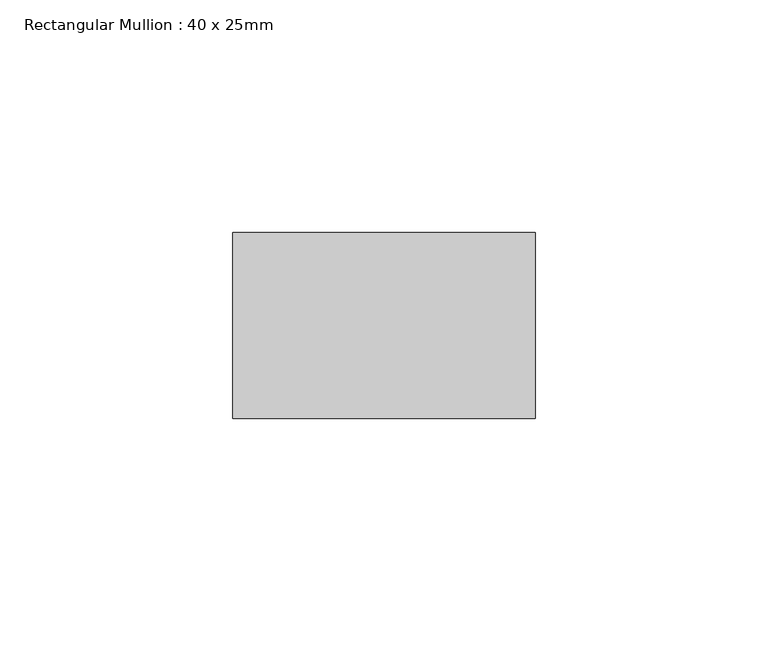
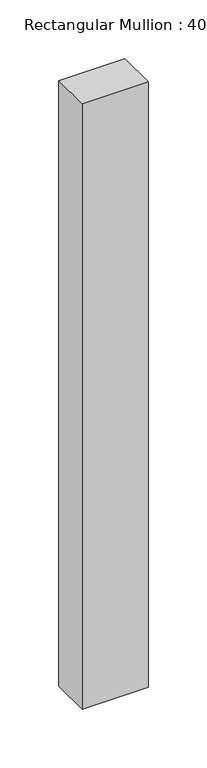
"""IFC4 building model written with IfcOpenShell, lengths in millimetres: member geometry, Rectangular Mullion : 40 x 25mm."""

from ifc_helpers import new_model, si_unit, frame, origin, place, context, project, spatial, polyline, outline, extrude, source, transform, mapped, element, save


def rectangular_mullion_40_x_25mm_33f95b57(model_context):
    return source(origin(), model_context, "Body", "SweptSolid", [
        extrude(outline(polyline([(40.0, -20.0), (40.0, -60.0), (-25.0, -60.0), (-25.0, -20.0), (40.0, -20.0)])), frame((0.0, 0.0, -630.0), z_axis=(0.0, 0.0, 1.0), x_axis=(1.0, 0.0, 0.0)), (0.0, 0.0, 1.0), 630.0),
    ])


if __name__ == "__main__":
    model = new_model("IFC4")
    model_context = context("Model", 3, world=origin())
    ifc_project = project(units=[si_unit("LENGTHUNIT", "METRE", prefix="MILLI")], contexts=[model_context])
    site = spatial("IfcSite", under=ifc_project)
    building = spatial("IfcBuilding", under=site)
    placement = place(None, origin())
    rectangular_mullion_40_x_25mm_shape = rectangular_mullion_40_x_25mm_33f95b57(model_context)
    element("IfcMember", 1, ObjectType="Rectangular Mullion : 40 x 25mm", at=placement, inside=building, context=model_context, shape_type="MappedRepresentation", body=[
        mapped(rectangular_mullion_40_x_25mm_shape, transform((0.0, 0.0, 0.0), x_axis=(1.0, 0.0, 0.0), y_axis=(0.0, 1.0, 0.0), z_axis=(0.0, 0.0, 1.0))),
    ])
    save(model, "model.ifc")
